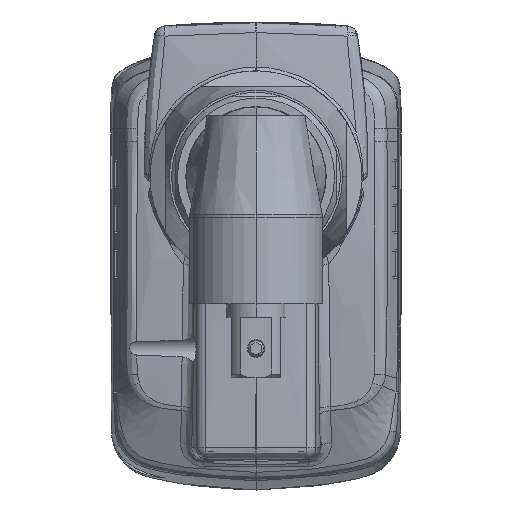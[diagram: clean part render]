
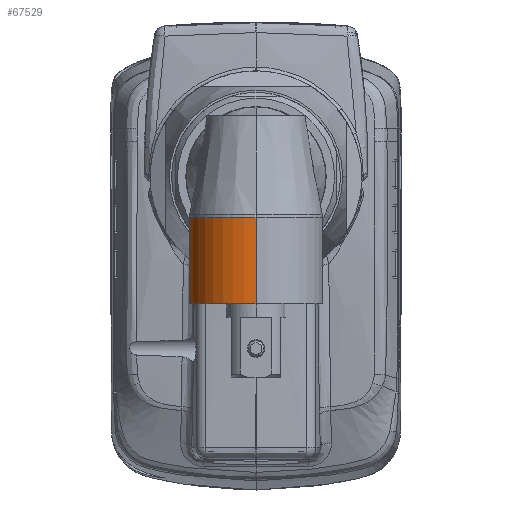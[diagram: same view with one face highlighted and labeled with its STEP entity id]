
A CAD part, front view. The second image highlights one B-rep face of the part: STEP entity #67529.
In plain terms, the highlighted cylindrical face has radius 17 mm (diameter 34 mm), a partial arc.
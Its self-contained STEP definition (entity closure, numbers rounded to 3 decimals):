
#1494 = DIRECTION ( 'NONE',  ( 0., 1., 0. ) ) ;
#4212 = CARTESIAN_POINT ( 'NONE',  ( -12.833, -87.246, -10.913 ) ) ;
#6160 = CARTESIAN_POINT ( 'NONE',  ( -10.677, -85.17, -14.549 ) ) ;
#6815 = CARTESIAN_POINT ( 'NONE',  ( -11.638, -86.008, -13.127 ) ) ;
#14224 = CARTESIAN_POINT ( 'NONE',  ( -7.027, -82.919, -18.165 ) ) ;
#14847 = VERTEX_POINT ( 'NONE', #46303 ) ;
#14878 = CARTESIAN_POINT ( 'NONE',  ( -11.612, -85.984, -13.17 ) ) ;
#16178 = CARTESIAN_POINT ( 'NONE',  ( -11.936, -86.295, -12.628 ) ) ;
#20692 = DIRECTION ( 'NONE',  ( 0., 0., 1. ) ) ;
#23718 = VERTEX_POINT ( 'NONE', #96035 ) ;
#24183 = DIRECTION ( 'NONE',  ( 0., 0., 1. ) ) ;
#25518 = CARTESIAN_POINT ( 'NONE',  ( -11.352, -85.741, -13.589 ) ) ;
#26172 = CARTESIAN_POINT ( 'NONE',  ( 0., -81.4, -20.5 ) ) ;
#27475 = CARTESIAN_POINT ( 'NONE',  ( -7.674, -83.227, -17.682 ) ) ;
#28639 = CARTESIAN_POINT ( 'NONE',  ( 0., -115.4, -10.437 ) ) ;
#31785 = DIRECTION ( 'NONE',  ( 0., 0., 1. ) ) ;
#34888 = CARTESIAN_POINT ( 'NONE',  ( -5.483, -82.27, -19.173 ) ) ;
#35542 = CARTESIAN_POINT ( 'NONE',  ( -8.272, -83.548, -17.175 ) ) ;
#36194 = CARTESIAN_POINT ( 'NONE',  ( -8.366, -83.601, -17.092 ) ) ;
#36818 = CARTESIAN_POINT ( 'NONE',  ( 0., -115.4, -32.4 ) ) ;
#37478 = CARTESIAN_POINT ( 'NONE',  ( -9.975, -84.634, -15.431 ) ) ;
#42183 = EDGE_CURVE ( 'NONE', #23718, #78821, #124713, .T. ) ;
#42333 = ORIENTED_EDGE ( 'NONE', *, *, #59818, .T. ) ;
#44878 = CARTESIAN_POINT ( 'NONE',  ( -11.839, -86.199, -12.796 ) ) ;
#45537 = CARTESIAN_POINT ( 'NONE',  ( -12.128, -86.486, -12.292 ) ) ;
#46192 = CARTESIAN_POINT ( 'NONE',  ( -9.994, -84.648, -15.409 ) ) ;
#46303 = CARTESIAN_POINT ( 'NONE',  ( -13.041, -87.495, -10.437 ) ) ;
#47495 = CARTESIAN_POINT ( 'NONE',  ( -13.041, -87.495, -10.437 ) ) ;
#54827 = CIRCLE ( 'NONE', #88812, 17. ) ;
#54890 = CARTESIAN_POINT ( 'NONE',  ( -6.771, -82.806, -18.34 ) ) ;
#56182 = CARTESIAN_POINT ( 'NONE',  ( -11.621, -85.992, -13.155 ) ) ;
#56839 = CARTESIAN_POINT ( 'NONE',  ( -11.088, -85.509, -13.982 ) ) ;
#59057 = EDGE_CURVE ( 'NONE', #23718, #77333, #61366, .T. ) ;
#59818 = EDGE_CURVE ( 'NONE', #78821, #69450, #94845, .T. ) ;
#61366 = LINE ( 'NONE', #80653, #80836 ) ;
#61809 = CARTESIAN_POINT ( 'NONE',  ( 0., -98.4, -34.797 ) ) ;
#66178 = CARTESIAN_POINT ( 'NONE',  ( -9.965, -84.627, -15.442 ) ) ;
#67480 = CARTESIAN_POINT ( 'NONE',  ( -8.31, -83.569, -17.142 ) ) ;
#67529 = ADVANCED_FACE ( 'NONE', ( #84367 ), #103754, .T. ) ;
#68132 = CARTESIAN_POINT ( 'NONE',  ( -7.244, -83.02, -18.007 ) ) ;
#69148 = EDGE_CURVE ( 'NONE', #14847, #77333, #95010, .T. ) ;
#69450 = VERTEX_POINT ( 'NONE', #28639 ) ;
#72381 = ORIENTED_EDGE ( 'NONE', *, *, #92716, .T. ) ;
#73424 = DIRECTION ( 'NONE',  ( 0., 0., 1. ) ) ;
#74281 = EDGE_LOOP ( 'NONE', ( #129087, #116479, #126004, #42333, #72381 ) ) ;
#75492 = CARTESIAN_POINT ( 'NONE',  ( -8.973, -83.96, -16.521 ) ) ;
#76147 = CARTESIAN_POINT ( 'NONE',  ( -6.532, -82.705, -18.497 ) ) ;
#76795 = CARTESIAN_POINT ( 'NONE',  ( -4.412, -81.945, -19.671 ) ) ;
#77333 = VERTEX_POINT ( 'NONE', #90662 ) ;
#77435 = CARTESIAN_POINT ( 'NONE',  ( -10.086, -84.715, -15.299 ) ) ;
#78821 = VERTEX_POINT ( 'NONE', #105643 ) ;
#79214 = DIRECTION ( 'NONE',  ( 0., -1., 0. ) ) ;
#80653 = CARTESIAN_POINT ( 'NONE',  ( 0., -81.4, -32.4 ) ) ;
#80836 = VECTOR ( 'NONE', #20692, 1000. ) ;
#83285 = AXIS2_PLACEMENT_3D ( 'NONE', #61809, #31785, #103088 ) ;
#83399 = CARTESIAN_POINT ( 'NONE',  ( 0., -98.4, -32.4 ) ) ;
#84248 = AXIS2_PLACEMENT_3D ( 'NONE', #83399, #73424, #1494 ) ;
#84367 = FACE_OUTER_BOUND ( 'NONE', #74281, .T. ) ;
#85478 = CARTESIAN_POINT ( 'NONE',  ( -6.55, -82.713, -18.485 ) ) ;
#86128 = CARTESIAN_POINT ( 'NONE',  ( -9.684, -84.424, -15.774 ) ) ;
#86792 = CARTESIAN_POINT ( 'NONE',  ( -8.252, -83.537, -17.193 ) ) ;
#87439 = CARTESIAN_POINT ( 'NONE',  ( -11.663, -86.032, -13.086 ) ) ;
#88084 = CARTESIAN_POINT ( 'NONE',  ( -10.467, -85.002, -14.828 ) ) ;
#88812 = AXIS2_PLACEMENT_3D ( 'NONE', #108597, #110583, #79214 ) ;
#90662 = CARTESIAN_POINT ( 'NONE',  ( 0., -81.4, -20.5 ) ) ;
#92716 = EDGE_CURVE ( 'NONE', #69450, #14847, #54827, .T. ) ;
#94845 = LINE ( 'NONE', #36818, #102175 ) ;
#95010 = B_SPLINE_CURVE_WITH_KNOTS ( 'NONE', 3,
 ( #47495, #4212, #98128, #116817, #45537, #16178, #44878, #96189, #87439, #6815, #56182, #14878, #25518, #56839, #6160, #88084, #108132, #77435, #127472, #46192, #37478, #66178, #86128, #107473, #75492, #128755, #96828, #36194, #67480, #35542, #86792, #118765, #27475, #68132, #14224, #54890, #95535, #106833, #85478, #76147, #126164, #34888, #76795, #117473, #116163, #26172 ),
 .UNSPECIFIED., .F., .F.,
 ( 4, 2, 2, 1, 1, 1, 2, 2, 2, 1, 1, 1, 1, 2, 2, 2, 1, 1, 1, 2, 2, 2, 1, 1, 1, 1, 2, 2, 2, 4 ),
 ( 0., 0.062, 0.094, 0.109, 0.117, 0.121, 0.123, 0.125, 0.188, 0.219, 0.234, 0.242, 0.246, 0.248, 0.25, 0.313, 0.344, 0.359, 0.367, 0.371, 0.375, 0.438, 0.469, 0.484, 0.492, 0.496, 0.498, 0.5, 0.75, 1. ),
 .UNSPECIFIED. ) ;
#95535 = CARTESIAN_POINT ( 'NONE',  ( -6.642, -82.751, -18.425 ) ) ;
#96035 = CARTESIAN_POINT ( 'NONE',  ( 0., -81.4, -32.4 ) ) ;
#96189 = CARTESIAN_POINT ( 'NONE',  ( -11.722, -86.088, -12.99 ) ) ;
#96828 = CARTESIAN_POINT ( 'NONE',  ( -8.496, -83.675, -16.975 ) ) ;
#98128 = CARTESIAN_POINT ( 'NONE',  ( -12.611, -86.994, -11.379 ) ) ;
#102175 = VECTOR ( 'NONE', #24183, 1000. ) ;
#103088 = DIRECTION ( 'NONE',  ( 0., 1., 0. ) ) ;
#103754 = CYLINDRICAL_SURFACE ( 'NONE', #83285, 17. ) ;
#105643 = CARTESIAN_POINT ( 'NONE',  ( 0., -115.4, -32.4 ) ) ;
#106833 = CARTESIAN_POINT ( 'NONE',  ( -6.578, -82.724, -18.467 ) ) ;
#107473 = CARTESIAN_POINT ( 'NONE',  ( -9.404, -84.234, -16.082 ) ) ;
#108132 = CARTESIAN_POINT ( 'NONE',  ( -10.214, -84.81, -15.143 ) ) ;
#108597 = CARTESIAN_POINT ( 'NONE',  ( 0., -98.4, -10.437 ) ) ;
#110583 = DIRECTION ( 'NONE',  ( 0., 0., -1. ) ) ;
#116163 = CARTESIAN_POINT ( 'NONE',  ( -1.113, -81.4, -20.5 ) ) ;
#116479 = ORIENTED_EDGE ( 'NONE', *, *, #59057, .F. ) ;
#116817 = CARTESIAN_POINT ( 'NONE',  ( -12.252, -86.613, -12.065 ) ) ;
#117473 = CARTESIAN_POINT ( 'NONE',  ( -2.226, -81.51, -20.334 ) ) ;
#118765 = CARTESIAN_POINT ( 'NONE',  ( -7.957, -83.374, -17.452 ) ) ;
#124713 = CIRCLE ( 'NONE', #84248, 17. ) ;
#126004 = ORIENTED_EDGE ( 'NONE', *, *, #42183, .T. ) ;
#126164 = CARTESIAN_POINT ( 'NONE',  ( -6.521, -82.701, -18.504 ) ) ;
#127472 = CARTESIAN_POINT ( 'NONE',  ( -10.022, -84.668, -15.376 ) ) ;
#128755 = CARTESIAN_POINT ( 'NONE',  ( -8.755, -83.826, -16.735 ) ) ;
#129087 = ORIENTED_EDGE ( 'NONE', *, *, #69148, .T. ) ;
